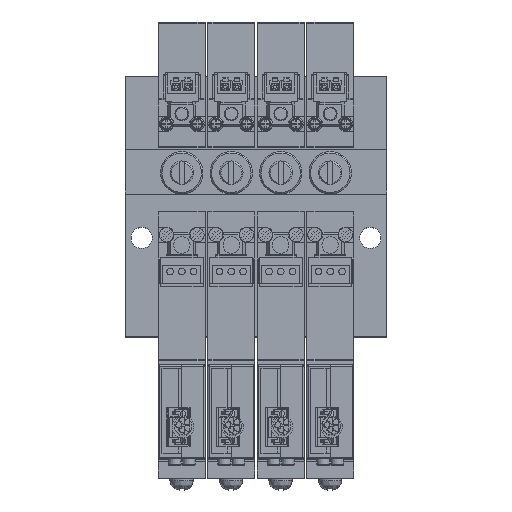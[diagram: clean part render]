
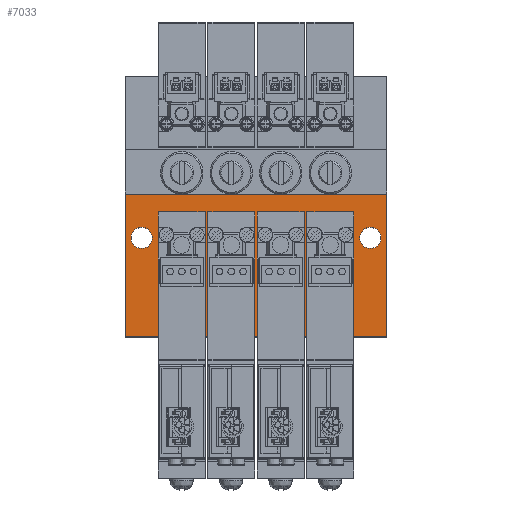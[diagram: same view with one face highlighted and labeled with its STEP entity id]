
A CAD part, top view. The second image highlights one B-rep face of the part: STEP entity #7033.
In plain terms, the highlighted planar face has unit normal (0, 0, 1).
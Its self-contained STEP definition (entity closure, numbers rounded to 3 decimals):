
#7033=ADVANCED_FACE('',(#12120,#12121,#12122),#12123,.F.);
#12120=FACE_BOUND('',#22524,.T.);
#12121=FACE_BOUND('',#22525,.T.);
#12122=FACE_OUTER_BOUND('',#22526,.T.);
#12123=PLANE('',#22527);
#22524=EDGE_LOOP('',(#34369));
#22525=EDGE_LOOP('',(#34370));
#22526=EDGE_LOOP('',(#34371,#34372,#34373,#34374));
#22527=AXIS2_PLACEMENT_3D('',#34375,#34376,#34377);
#34369=ORIENTED_EDGE('',*,*,#74465,.F.);
#34370=ORIENTED_EDGE('',*,*,#74466,.F.);
#34371=ORIENTED_EDGE('',*,*,#74467,.F.);
#34372=ORIENTED_EDGE('',*,*,#74468,.F.);
#34373=ORIENTED_EDGE('',*,*,#74469,.T.);
#34374=ORIENTED_EDGE('',*,*,#74463,.T.);
#34375=CARTESIAN_POINT('',(-55.5,30.3,14.8));
#34376=DIRECTION('',(0.0,0.0,-1.0));
#34377=DIRECTION('',(1.0,0.0,0.0));
#74463=EDGE_CURVE('',#87390,#87388,#87391,.T.);
#74465=EDGE_CURVE('',#87393,#87393,#87394,.T.);
#74466=EDGE_CURVE('',#87395,#87395,#87396,.T.);
#74467=EDGE_CURVE('',#87397,#87388,#87398,.T.);
#74468=EDGE_CURVE('',#87399,#87397,#87400,.T.);
#74469=EDGE_CURVE('',#87399,#87390,#87401,.T.);
#87388=VERTEX_POINT('',#109084);
#87390=VERTEX_POINT('',#109087);
#87391=LINE('',#109088,#109089);
#87393=VERTEX_POINT('',#109092);
#87394=CIRCLE('',#109093,2.25);
#87395=VERTEX_POINT('',#109094);
#87396=CIRCLE('',#109095,2.25);
#87397=VERTEX_POINT('',#109096);
#87398=LINE('',#109097,#109098);
#87399=VERTEX_POINT('',#109099);
#87400=LINE('',#109100,#109101);
#87401=LINE('',#109102,#109103);
#109084=CARTESIAN_POINT('',(0.0,0.,14.8));
#109087=CARTESIAN_POINT('',(-55.5,0.,14.8));
#109088=CARTESIAN_POINT('',(-55.5,0.,14.8));
#109089=VECTOR('',#143508,1.0);
#109092=CARTESIAN_POINT('',(-49.75,21.0,14.8));
#109093=AXIS2_PLACEMENT_3D('',#143510,#143511,#143512);
#109094=CARTESIAN_POINT('',(-1.25,21.0,14.8));
#109095=AXIS2_PLACEMENT_3D('',#143513,#143514,#143515);
#109096=CARTESIAN_POINT('',(0.0,30.3,14.8));
#109097=CARTESIAN_POINT('',(0.0,30.3,14.8));
#109098=VECTOR('',#143516,1.0);
#109099=CARTESIAN_POINT('',(-55.5,30.3,14.8));
#109100=CARTESIAN_POINT('',(-55.5,30.3,14.8));
#109101=VECTOR('',#143517,1.0);
#109102=CARTESIAN_POINT('',(-55.5,30.3,14.8));
#109103=VECTOR('',#143518,1.0);
#143508=DIRECTION('',(1.0,0.0,0.0));
#143510=CARTESIAN_POINT('',(-52.0,21.0,14.8));
#143511=DIRECTION('',(0.0,0.0,1.0));
#143512=DIRECTION('',(1.0,0.0,0.0));
#143513=CARTESIAN_POINT('',(-3.5,21.0,14.8));
#143514=DIRECTION('',(0.0,0.0,1.0));
#143515=DIRECTION('',(1.0,0.0,0.0));
#143516=DIRECTION('',(0.0,-1.0,0.0));
#143517=DIRECTION('',(1.0,0.0,0.0));
#143518=DIRECTION('',(0.0,-1.0,0.0));
